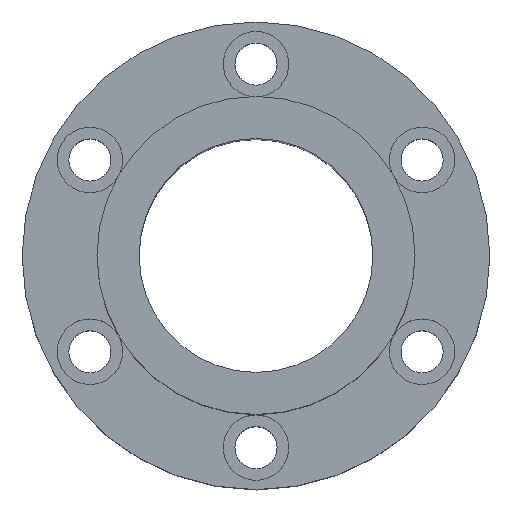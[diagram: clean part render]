
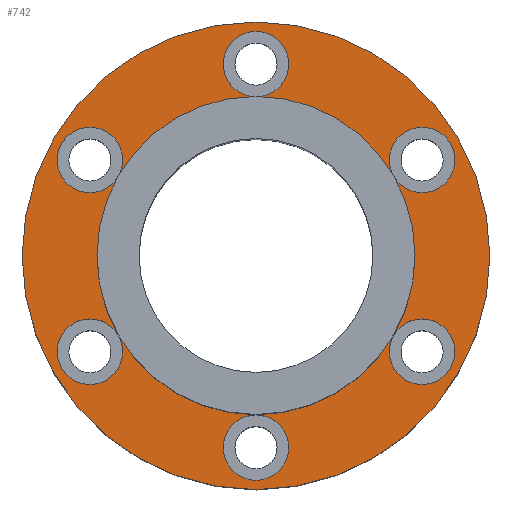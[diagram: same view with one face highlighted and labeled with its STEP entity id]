
A CAD part, top view. The second image highlights one B-rep face of the part: STEP entity #742.
In plain terms, the highlighted planar face has unit normal (0, 0, 1).
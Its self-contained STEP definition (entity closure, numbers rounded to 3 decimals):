
#1=CARTESIAN_POINT('',(0.,0.,19.));
#2=DIRECTION('',(0.,0.,-1.));
#3=DIRECTION('',(0.866,0.5,0.));
#4=AXIS2_PLACEMENT_3D('',#1,#2,#3);
#6=CARTESIAN_POINT('',(35.507,20.5,19.));
#7=DIRECTION('',(0.,0.,-1.));
#8=DIRECTION('',(0.5,-0.866,0.));
#9=AXIS2_PLACEMENT_3D('',#6,#7,#8);
#11=CARTESIAN_POINT('',(35.507,20.5,19.));
#12=DIRECTION('',(0.,0.,-1.));
#13=DIRECTION('',(-0.5,0.866,0.));
#14=AXIS2_PLACEMENT_3D('',#11,#12,#13);
#16=CARTESIAN_POINT('',(35.507,20.5,19.));
#17=DIRECTION('',(0.,0.,-1.));
#18=DIRECTION('',(-0.866,-0.5,0.));
#19=AXIS2_PLACEMENT_3D('',#16,#17,#18);
#21=CARTESIAN_POINT('',(0.,0.,19.));
#22=DIRECTION('',(0.,0.,-1.));
#23=DIRECTION('',(0.,1.,0.));
#24=AXIS2_PLACEMENT_3D('',#21,#22,#23);
#26=CARTESIAN_POINT('',(0.,41.,19.));
#27=DIRECTION('',(0.,0.,-1.));
#28=DIRECTION('',(1.,0.,0.));
#29=AXIS2_PLACEMENT_3D('',#26,#27,#28);
#31=CARTESIAN_POINT('',(0.,41.,19.));
#32=DIRECTION('',(0.,0.,-1.));
#33=DIRECTION('',(-1.,0.,0.));
#34=AXIS2_PLACEMENT_3D('',#31,#32,#33);
#36=CARTESIAN_POINT('',(0.,41.,19.));
#37=DIRECTION('',(0.,0.,-1.));
#38=DIRECTION('',(0.,-1.,0.));
#39=AXIS2_PLACEMENT_3D('',#36,#37,#38);
#41=CARTESIAN_POINT('',(0.,0.,19.));
#42=DIRECTION('',(0.,0.,-1.));
#43=DIRECTION('',(-0.866,0.5,0.));
#44=AXIS2_PLACEMENT_3D('',#41,#42,#43);
#46=CARTESIAN_POINT('',(-35.507,20.5,19.));
#47=DIRECTION('',(0.,0.,-1.));
#48=DIRECTION('',(0.5,0.866,0.));
#49=AXIS2_PLACEMENT_3D('',#46,#47,#48);
#51=CARTESIAN_POINT('',(-35.507,20.5,19.));
#52=DIRECTION('',(0.,0.,-1.));
#53=DIRECTION('',(-0.5,-0.866,0.));
#54=AXIS2_PLACEMENT_3D('',#51,#52,#53);
#56=CARTESIAN_POINT('',(-35.507,20.5,19.));
#57=DIRECTION('',(0.,0.,-1.));
#58=DIRECTION('',(0.866,-0.5,0.));
#59=AXIS2_PLACEMENT_3D('',#56,#57,#58);
#61=CARTESIAN_POINT('',(0.,0.,19.));
#62=DIRECTION('',(0.,0.,-1.));
#63=DIRECTION('',(-1.,0.,0.));
#64=AXIS2_PLACEMENT_3D('',#61,#62,#63);
#66=CARTESIAN_POINT('',(0.,0.,19.));
#67=DIRECTION('',(0.,0.,-1.));
#68=DIRECTION('',(-0.866,-0.5,0.));
#69=AXIS2_PLACEMENT_3D('',#66,#67,#68);
#71=CARTESIAN_POINT('',(-35.507,-20.5,19.));
#72=DIRECTION('',(0.,0.,-1.));
#73=DIRECTION('',(-0.5,0.866,0.));
#74=AXIS2_PLACEMENT_3D('',#71,#72,#73);
#76=CARTESIAN_POINT('',(-35.507,-20.5,19.));
#77=DIRECTION('',(0.,0.,-1.));
#78=DIRECTION('',(0.5,-0.866,0.));
#79=AXIS2_PLACEMENT_3D('',#76,#77,#78);
#81=CARTESIAN_POINT('',(-35.507,-20.5,19.));
#82=DIRECTION('',(0.,0.,-1.));
#83=DIRECTION('',(0.866,0.5,0.));
#84=AXIS2_PLACEMENT_3D('',#81,#82,#83);
#86=CARTESIAN_POINT('',(0.,0.,19.));
#87=DIRECTION('',(0.,0.,-1.));
#88=DIRECTION('',(0.,-1.,0.));
#89=AXIS2_PLACEMENT_3D('',#86,#87,#88);
#91=CARTESIAN_POINT('',(0.,-41.,19.));
#92=DIRECTION('',(0.,0.,-1.));
#93=DIRECTION('',(-1.,0.,0.));
#94=AXIS2_PLACEMENT_3D('',#91,#92,#93);
#96=CARTESIAN_POINT('',(0.,-41.,19.));
#97=DIRECTION('',(0.,0.,-1.));
#98=DIRECTION('',(1.,0.,0.));
#99=AXIS2_PLACEMENT_3D('',#96,#97,#98);
#101=CARTESIAN_POINT('',(0.,-41.,19.));
#102=DIRECTION('',(0.,0.,-1.));
#103=DIRECTION('',(0.,1.,0.));
#104=AXIS2_PLACEMENT_3D('',#101,#102,#103);
#106=CARTESIAN_POINT('',(0.,0.,19.));
#107=DIRECTION('',(0.,0.,-1.));
#108=DIRECTION('',(0.866,-0.5,0.));
#109=AXIS2_PLACEMENT_3D('',#106,#107,#108);
#111=CARTESIAN_POINT('',(35.507,-20.5,19.));
#112=DIRECTION('',(0.,0.,-1.));
#113=DIRECTION('',(-0.5,-0.866,0.));
#114=AXIS2_PLACEMENT_3D('',#111,#112,#113);
#116=CARTESIAN_POINT('',(35.507,-20.5,19.));
#117=DIRECTION('',(0.,0.,-1.));
#118=DIRECTION('',(0.5,0.866,0.));
#119=AXIS2_PLACEMENT_3D('',#116,#117,#118);
#121=CARTESIAN_POINT('',(35.507,-20.5,19.));
#122=DIRECTION('',(0.,0.,-1.));
#123=DIRECTION('',(-0.866,0.5,0.));
#124=AXIS2_PLACEMENT_3D('',#121,#122,#123);
#126=CARTESIAN_POINT('',(0.,0.,19.));
#127=DIRECTION('',(0.,0.,-1.));
#128=DIRECTION('',(1.,0.,0.));
#129=AXIS2_PLACEMENT_3D('',#126,#127,#128);
#131=CARTESIAN_POINT('',(0.,0.,19.));
#132=DIRECTION('',(0.,0.,1.));
#133=DIRECTION('',(1.,0.,0.));
#134=AXIS2_PLACEMENT_3D('',#131,#132,#133);
#136=CARTESIAN_POINT('',(0.,0.,19.));
#137=DIRECTION('',(0.,0.,1.));
#138=DIRECTION('',(-1.,0.,0.));
#139=AXIS2_PLACEMENT_3D('',#136,#137,#138);
#593=CARTESIAN_POINT('',(-50.,0.,19.));
#595=VERTEX_POINT('',#593);
#597=CARTESIAN_POINT('',(50.,0.,19.));
#599=VERTEX_POINT('',#597);
#601=CARTESIAN_POINT('',(7.,41.,19.));
#603=VERTEX_POINT('',#601);
#605=CARTESIAN_POINT('',(-7.,41.,19.));
#607=VERTEX_POINT('',#605);
#609=CARTESIAN_POINT('',(-32.007,26.562,19.));
#611=VERTEX_POINT('',#609);
#613=CARTESIAN_POINT('',(-39.007,14.438,19.));
#615=VERTEX_POINT('',#613);
#617=CARTESIAN_POINT('',(-39.007,-14.438,19.));
#619=VERTEX_POINT('',#617);
#621=CARTESIAN_POINT('',(-32.007,-26.562,19.));
#623=VERTEX_POINT('',#621);
#625=CARTESIAN_POINT('',(-7.,-41.,19.));
#627=VERTEX_POINT('',#625);
#629=CARTESIAN_POINT('',(7.,-41.,19.));
#631=VERTEX_POINT('',#629);
#633=CARTESIAN_POINT('',(32.007,-26.562,19.));
#635=VERTEX_POINT('',#633);
#637=CARTESIAN_POINT('',(39.007,-14.438,19.));
#639=VERTEX_POINT('',#637);
#641=CARTESIAN_POINT('',(39.007,14.438,19.));
#643=VERTEX_POINT('',#641);
#645=CARTESIAN_POINT('',(32.007,26.562,19.));
#647=VERTEX_POINT('',#645);
#658=CARTESIAN_POINT('',(34.,0.,19.));
#660=VERTEX_POINT('',#658);
#662=CARTESIAN_POINT('',(-34.,0.,19.));
#664=VERTEX_POINT('',#662);
#665=CARTESIAN_POINT('',(29.445,-17.,19.));
#666=VERTEX_POINT('',#665);
#667=CARTESIAN_POINT('',(0.,-34.,19.));
#668=VERTEX_POINT('',#667);
#669=CARTESIAN_POINT('',(-29.445,-17.,19.));
#670=VERTEX_POINT('',#669);
#671=CARTESIAN_POINT('',(-29.445,17.,19.));
#672=VERTEX_POINT('',#671);
#673=CARTESIAN_POINT('',(0.,34.,19.));
#674=VERTEX_POINT('',#673);
#675=CARTESIAN_POINT('',(29.445,17.,19.));
#676=VERTEX_POINT('',#675);
#677=CARTESIAN_POINT('',(0.,0.,19.));
#678=DIRECTION('',(0.,0.,1.));
#679=DIRECTION('',(1.,0.,0.));
#680=AXIS2_PLACEMENT_3D('',#677,#678,#679);
#681=PLANE('',#680);
#683=ORIENTED_EDGE('',*,*,#682,.F.);
#685=ORIENTED_EDGE('',*,*,#684,.F.);
#686=EDGE_LOOP('',(#683,#685));
#687=FACE_OUTER_BOUND('',#686,.F.);
#689=ORIENTED_EDGE('',*,*,#688,.F.);
#691=ORIENTED_EDGE('',*,*,#690,.F.);
#693=ORIENTED_EDGE('',*,*,#692,.F.);
#695=ORIENTED_EDGE('',*,*,#694,.F.);
#697=ORIENTED_EDGE('',*,*,#696,.F.);
#699=ORIENTED_EDGE('',*,*,#698,.F.);
#701=ORIENTED_EDGE('',*,*,#700,.F.);
#703=ORIENTED_EDGE('',*,*,#702,.F.);
#705=ORIENTED_EDGE('',*,*,#704,.F.);
#707=ORIENTED_EDGE('',*,*,#706,.F.);
#709=ORIENTED_EDGE('',*,*,#708,.F.);
#711=ORIENTED_EDGE('',*,*,#710,.F.);
#713=ORIENTED_EDGE('',*,*,#712,.F.);
#715=ORIENTED_EDGE('',*,*,#714,.F.);
#717=ORIENTED_EDGE('',*,*,#716,.F.);
#719=ORIENTED_EDGE('',*,*,#718,.F.);
#721=ORIENTED_EDGE('',*,*,#720,.F.);
#723=ORIENTED_EDGE('',*,*,#722,.F.);
#725=ORIENTED_EDGE('',*,*,#724,.F.);
#727=ORIENTED_EDGE('',*,*,#726,.F.);
#729=ORIENTED_EDGE('',*,*,#728,.F.);
#731=ORIENTED_EDGE('',*,*,#730,.F.);
#733=ORIENTED_EDGE('',*,*,#732,.F.);
#735=ORIENTED_EDGE('',*,*,#734,.F.);
#737=ORIENTED_EDGE('',*,*,#736,.F.);
#739=ORIENTED_EDGE('',*,*,#738,.F.);
#740=EDGE_LOOP('',(#689,#691,#693,#695,#697,#699,#701,#703,#705,#707,#709,#711,
#713,#715,#717,#719,#721,#723,#725,#727,#729,#731,#733,#735,#737,#739));
#741=FACE_BOUND('',#740,.F.);
#742=ADVANCED_FACE('',(#687,#741),#681,.T.);
#5=CIRCLE('',#4,34.);
#10=CIRCLE('',#9,7.);
#15=CIRCLE('',#14,7.);
#20=CIRCLE('',#19,7.);
#25=CIRCLE('',#24,34.);
#30=CIRCLE('',#29,7.);
#35=CIRCLE('',#34,7.);
#40=CIRCLE('',#39,7.);
#45=CIRCLE('',#44,34.);
#50=CIRCLE('',#49,7.);
#55=CIRCLE('',#54,7.);
#60=CIRCLE('',#59,7.);
#65=CIRCLE('',#64,34.);
#70=CIRCLE('',#69,34.);
#75=CIRCLE('',#74,7.);
#80=CIRCLE('',#79,7.);
#85=CIRCLE('',#84,7.);
#90=CIRCLE('',#89,34.);
#95=CIRCLE('',#94,7.);
#100=CIRCLE('',#99,7.);
#105=CIRCLE('',#104,7.);
#110=CIRCLE('',#109,34.);
#115=CIRCLE('',#114,7.);
#120=CIRCLE('',#119,7.);
#125=CIRCLE('',#124,7.);
#130=CIRCLE('',#129,34.);
#135=CIRCLE('',#134,50.);
#140=CIRCLE('',#139,50.);
#682=EDGE_CURVE('',#599,#595,#135,.T.);
#684=EDGE_CURVE('',#595,#599,#140,.T.);
#688=EDGE_CURVE('',#676,#660,#5,.T.);
#690=EDGE_CURVE('',#643,#676,#10,.T.);
#692=EDGE_CURVE('',#647,#643,#15,.T.);
#694=EDGE_CURVE('',#676,#647,#20,.T.);
#696=EDGE_CURVE('',#674,#676,#25,.T.);
#698=EDGE_CURVE('',#603,#674,#30,.T.);
#700=EDGE_CURVE('',#607,#603,#35,.T.);
#702=EDGE_CURVE('',#674,#607,#40,.T.);
#704=EDGE_CURVE('',#672,#674,#45,.T.);
#706=EDGE_CURVE('',#611,#672,#50,.T.);
#708=EDGE_CURVE('',#615,#611,#55,.T.);
#710=EDGE_CURVE('',#672,#615,#60,.T.);
#712=EDGE_CURVE('',#664,#672,#65,.T.);
#714=EDGE_CURVE('',#670,#664,#70,.T.);
#716=EDGE_CURVE('',#619,#670,#75,.T.);
#718=EDGE_CURVE('',#623,#619,#80,.T.);
#720=EDGE_CURVE('',#670,#623,#85,.T.);
#722=EDGE_CURVE('',#668,#670,#90,.T.);
#724=EDGE_CURVE('',#627,#668,#95,.T.);
#726=EDGE_CURVE('',#631,#627,#100,.T.);
#728=EDGE_CURVE('',#668,#631,#105,.T.);
#730=EDGE_CURVE('',#666,#668,#110,.T.);
#732=EDGE_CURVE('',#635,#666,#115,.T.);
#734=EDGE_CURVE('',#639,#635,#120,.T.);
#736=EDGE_CURVE('',#666,#639,#125,.T.);
#738=EDGE_CURVE('',#660,#666,#130,.T.);
